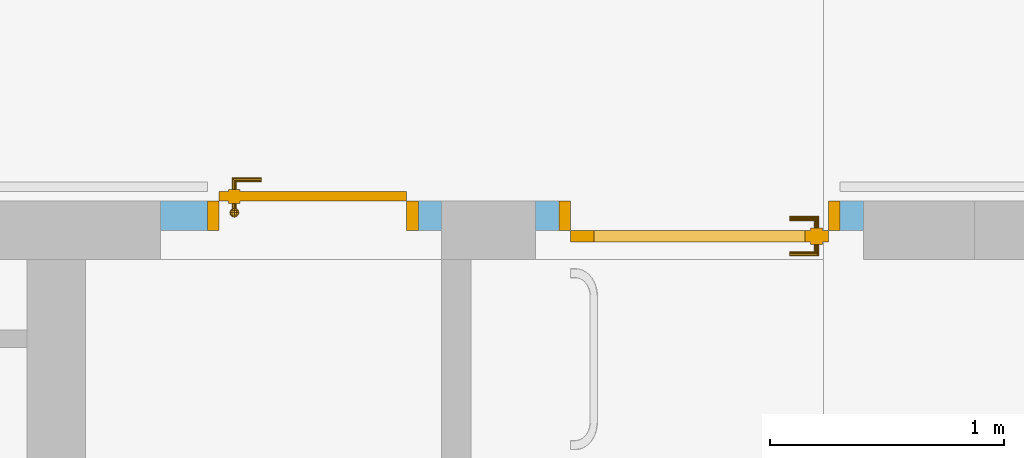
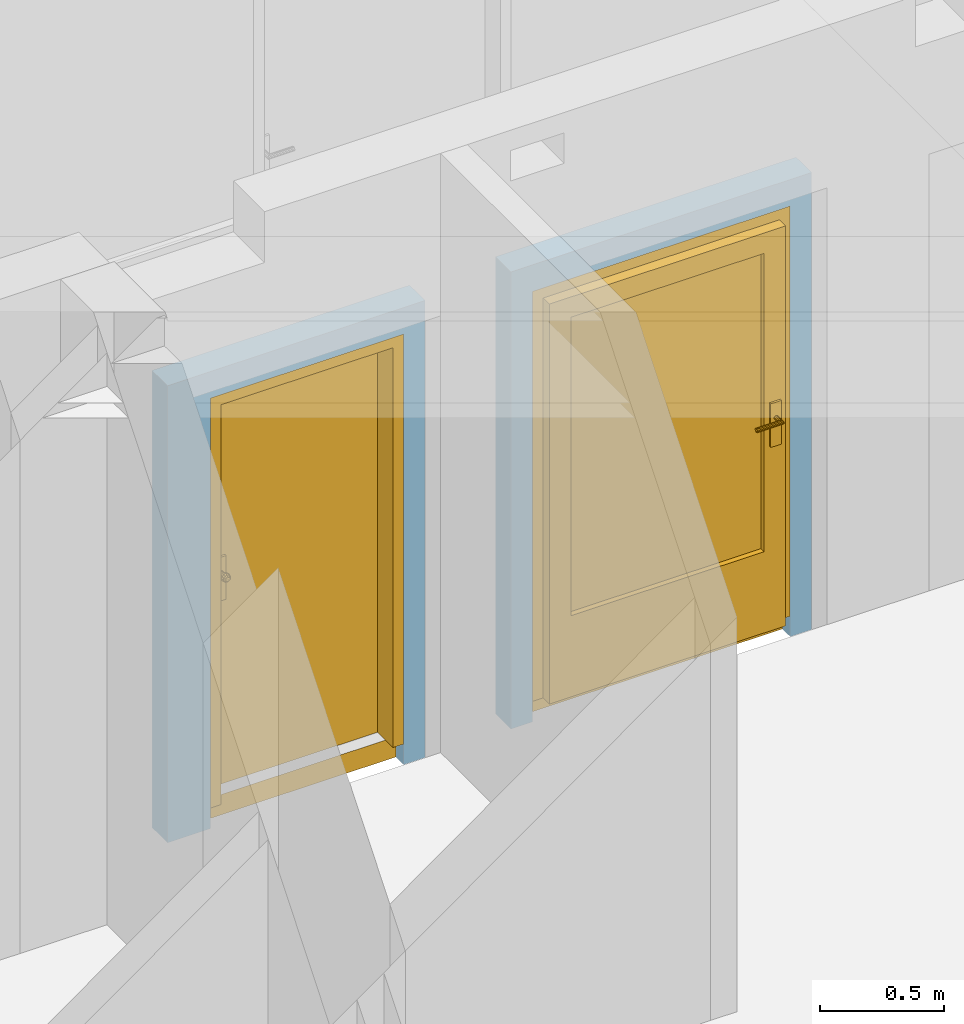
# One storey, part 49 of 84: 2 doors, 2 openings, plus 2 elements that do not belong to this part.
"""IFC4 building model written with IfcOpenShell, lengths in metres."""

from ifc_helpers import new_model, entity, si_unit, converted_unit, derived_unit, frame, frame_2d, origin, origin_with_axes, place, context, subcontext, project, spatial, polyline, rectangle, outline, extrude, closed_shell, open_shell, surface_model, source, transform, mapped, material, layer, layer_set, layer_usage, type_object, element, fill, save


model = new_model("IFC4")

# Units and contexts
model_context = context("Model", 3, precision=1e-05, world=origin())
body_context = subcontext(model_context, "Body", "Model", "MODEL_VIEW")
ifc_project = project(units=[si_unit("LENGTHUNIT", "METRE"), si_unit("AREAUNIT", "SQUARE_METRE"), si_unit("VOLUMEUNIT", "CUBIC_METRE"), si_unit("MASSUNIT", "GRAM", prefix="KILO"), converted_unit("PLANEANGLEUNIT", "DEGREE", entity("IfcPlaneAngleMeasure", 0.0174532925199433), si_unit("PLANEANGLEUNIT", "RADIAN"), dimensions=[0, 0, 0, 0, 0, 0, 0]), derived_unit("THERMALTRANSMITTANCEUNIT", [(si_unit("POWERUNIT", "WATT"), 1), (si_unit("THERMODYNAMICTEMPERATUREUNIT", "KELVIN"), -1), (si_unit("LENGTHUNIT", "METRE"), -2)]), derived_unit("VOLUMETRICFLOWRATEUNIT", [(si_unit("LENGTHUNIT", "METRE"), 3), (converted_unit("TIMEUNIT", "hour", entity("IfcTimeMeasure", 3600.0), si_unit("TIMEUNIT", "SECOND"), dimensions=[0, 0, 1, 0, 0, 0, 0]), -1), (si_unit("LENGTHUNIT", "METRE"), -1)])], contexts=[model_context])

# Site, building, storey
site_placement = place(None, origin())
site = spatial("IfcSite", under=ifc_project, at=site_placement, Name="3. ASŘ", CompositionType="ELEMENT")
building_placement = place(site_placement, origin())
building = spatial("IfcBuilding", under=site, at=building_placement, Name="Pavilon C", CompositionType="ELEMENT")
storey_placement = place(building_placement, frame((0.0, 0.0, -3.3)))
storey = spatial("IfcBuildingStorey", under=building, at=storey_placement, Name="Půdorys 1.PP", CompositionType="ELEMENT", Elevation=-3.3)

# Wall, opening, door
ifc_material_1 = material(Name="YTONG 125")
ifc_layer_1 = layer(ifc_material_1, 0.125)
ifc_layer_set_1 = layer_set([ifc_layer_1])
ifc_layer_usage_1 = layer_usage(ifc_layer_set_1, "AXIS2", "POSITIVE", 0.0)
wall_1_placement = place(storey_placement, frame((3.67, 7.525, -0.1), z_axis=(0.0, 0.0, 1.0), x_axis=(-1.0, 0.0, 0.0)))
wall_1 = element("IfcWall", 1, at=wall_1_placement, inside=storey, material=ifc_layer_usage_1, Name="YTONG 125", context=body_context, shape_type="SweptSolid", body=[
    extrude(rectangle(XDim=1.2, YDim=0.125, at=frame_2d((0.6, 0.0625), x_axis=(1.0, 0.0))), origin_with_axes(), (0.0, 0.0, 1.0), 2.25),
])
opening_1_placement = place(wall_1_placement, frame((1.0, 0.125, 0.0), z_axis=(0.0, -1.0, 0.0), x_axis=(0.0, 0.0, 1.0)))
opening_1 = element("IfcOpeningElement", 2, at=opening_1_placement, cuts=wall_1, Name="Dveřní otvor", ObjectType="Opening", context=body_context, shape_type="SweptSolid", body=[
    extrude(outline(polyline([(0.0, 0.9), (2.12, 0.9), (2.12, 0.0), (0.0, 0.0), (0.0, 0.9)])), origin_with_axes(), (0.0, 0.0, 1.0), 0.125),
])
door_type_1 = type_object("IfcDoorType", Name="I.D029", OperationType="NOTDEFINED", ParameterTakesPrecedence=False, PredefinedType="DOOR")
shared_shape_1 = source(origin_with_axes(), body_context, "Body", "SurfaceModel", [
    surface_model("IfcShellBasedSurfaceModel", [(0.0, 0.0625, 0.0), (0.9, 0.0625, 0.0), (0.9, 0.0625, 0.1), (0.0, 0.0625, 0.1)], [open_shell([[[0, 1, 2, 3]]], orient=[[False]])]),
    surface_model("IfcShellBasedSurfaceModel", [(0.0, 0.125, 2.12), (0.0, 0.125, 0.101), (0.05, 0.125, 0.101), (0.05, 0.125, 2.12), (0.0, 0.0, 0.101), (0.0, 2.41584530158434e-16, 2.12), (0.05, 2.41584530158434e-16, 2.12), (0.05, 0.0, 0.101)], [closed_shell([[[0, 1, 2, 3]], [[4, 5, 6, 7]], [[1, 0, 5, 4]], [[2, 1, 4, 7]], [[3, 2, 7, 6]], [[0, 3, 6, 5]]], orient=[[False], [False], [False], [False], [False], [False]])]),
    surface_model("IfcShellBasedSurfaceModel", [(0.85, 0.125, 2.12), (0.85, 0.125, 0.101), (0.9, 0.125, 0.101), (0.9, 0.125, 2.12), (0.85, 0.0, 0.101), (0.85, 2.41584530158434e-16, 2.12), (0.9, 2.41584530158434e-16, 2.12), (0.9, 0.0, 0.101)], [closed_shell([[[0, 1, 2, 3]], [[4, 5, 6, 7]], [[1, 0, 5, 4]], [[2, 1, 4, 7]], [[3, 2, 7, 6]], [[0, 3, 6, 5]]], orient=[[False], [False], [False], [False], [False], [False]])]),
    surface_model("IfcShellBasedSurfaceModel", [(0.05, 0.125, 2.12), (0.05, 0.125, 2.07), (0.85, 0.125, 2.07), (0.85, 0.125, 2.12), (0.05, 2.41584530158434e-16, 2.07), (0.05, 2.41584530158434e-16, 2.12), (0.85, 2.41584530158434e-16, 2.12), (0.85, 2.41584530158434e-16, 2.07)], [closed_shell([[[0, 1, 2, 3]], [[4, 5, 6, 7]], [[1, 0, 5, 4]], [[2, 1, 4, 7]], [[3, 2, 7, 6]], [[0, 3, 6, 5]]], orient=[[False], [False], [False], [False], [False], [False]])]),
    surface_model("IfcShellBasedSurfaceModel", [(0.05, 0.165, 2.07), (0.05, 0.165, 0.101), (0.85, 0.165, 0.101), (0.85, 0.165, 2.07), (0.05, 0.125, 0.101), (0.05, 0.125, 2.07), (0.85, 0.125, 2.07), (0.85, 0.125, 0.101)], [closed_shell([[[0, 1, 2, 3]], [[4, 5, 6, 7]], [[1, 0, 5, 4]], [[2, 1, 4, 7]], [[3, 2, 7, 6]], [[0, 3, 6, 5]]], orient=[[False], [False], [False], [False], [False], [False]])]),
    surface_model("IfcShellBasedSurfaceModel", [(0.76, 0.125, 1.226), (0.76, 0.125, 1.011), (0.81, 0.125, 1.011), (0.81, 0.125, 1.226), (0.76, 0.115, 1.011), (0.76, 0.115, 1.226), (0.81, 0.115, 1.226), (0.81, 0.115, 1.011)], [closed_shell([[[0, 1, 2, 3]], [[4, 5, 6, 7]], [[1, 0, 5, 4]], [[2, 1, 4, 7]], [[3, 2, 7, 6]], [[0, 3, 6, 5]]], orient=[[False], [False], [False], [False], [False], [False]])]),
    surface_model("IfcShellBasedSurfaceModel", [(0.793660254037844, 0.115, 1.146), (0.795, 0.115, 1.151), (0.793660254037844, 0.115, 1.156), (0.79, 0.115, 1.15966025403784), (0.785, 0.115, 1.161), (0.78, 0.115, 1.15966025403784), (0.776339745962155, 0.115, 1.156), (0.775, 0.115, 1.151), (0.776339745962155, 0.115, 1.146), (0.78, 0.115, 1.14233974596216), (0.785, 0.115, 1.141), (0.79, 0.115, 1.14233974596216), (0.795, 0.0750000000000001, 1.151), (0.793660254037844, 0.0750000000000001, 1.146), (0.79, 0.0750000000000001, 1.14233974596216), (0.785, 0.0750000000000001, 1.141), (0.78, 0.0750000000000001, 1.14233974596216), (0.776339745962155, 0.0750000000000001, 1.146), (0.775, 0.0750000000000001, 1.151), (0.776339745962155, 0.0750000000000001, 1.156), (0.78, 0.0750000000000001, 1.15966025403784), (0.785, 0.0750000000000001, 1.161), (0.79, 0.0750000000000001, 1.15966025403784), (0.793660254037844, 0.0750000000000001, 1.156)], [closed_shell([[[0, 1, 2, 3, 4, 5, 6, 7, 8, 9, 10, 11]], [[12, 13, 14, 15, 16, 17, 18, 19, 20, 21, 22, 23]], [[1, 0, 13, 12]], [[2, 1, 12, 23]], [[3, 2, 23, 22]], [[4, 3, 22, 21]], [[5, 4, 21, 20]], [[6, 5, 20, 19]], [[7, 6, 19, 18]], [[8, 7, 18, 17]], [[9, 8, 17, 16]], [[10, 9, 16, 15]], [[11, 10, 15, 14]], [[0, 11, 14, 13]]], orient=[[False], [False], [False], [False], [False], [False], [False], [False], [False], [False], [False], [False], [False], [False]])]),
    surface_model("IfcShellBasedSurfaceModel", [(0.805, 0.0750000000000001, 1.151), (0.802320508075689, 0.0650000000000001, 1.151), (0.8, 0.0650000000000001, 1.15966025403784), (0.802320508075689, 0.0750000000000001, 1.161), (0.793660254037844, 0.0650000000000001, 1.166), (0.795, 0.0750000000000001, 1.16832050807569), (0.785, 0.0650000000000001, 1.16832050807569), (0.785, 0.0750000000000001, 1.171), (0.776339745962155, 0.0650000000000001, 1.166), (0.775, 0.0750000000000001, 1.16832050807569), (0.77, 0.0650000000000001, 1.15966025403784), (0.767679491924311, 0.0750000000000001, 1.161), (0.767679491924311, 0.0650000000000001, 1.151), (0.765, 0.0750000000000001, 1.151), (0.77, 0.0650000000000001, 1.14233974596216), (0.767679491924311, 0.0750000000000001, 1.141), (0.776339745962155, 0.0650000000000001, 1.136), (0.775, 0.0750000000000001, 1.13367949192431), (0.785, 0.0650000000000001, 1.13367949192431), (0.785, 0.0750000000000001, 1.131), (0.793660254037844, 0.0650000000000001, 1.136), (0.795, 0.0750000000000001, 1.13367949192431), (0.8, 0.0650000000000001, 1.14233974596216), (0.802320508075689, 0.0750000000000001, 1.141), (0.795, 0.0576794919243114, 1.151), (0.793660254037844, 0.0576794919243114, 1.156), (0.79, 0.0576794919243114, 1.15966025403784), (0.785, 0.0576794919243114, 1.161), (0.78, 0.0576794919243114, 1.15966025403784), (0.776339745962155, 0.0576794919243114, 1.156), (0.775, 0.0576794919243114, 1.151), (0.776339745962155, 0.0576794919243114, 1.146), (0.78, 0.0576794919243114, 1.14233974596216), (0.785, 0.0576794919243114, 1.141), (0.79, 0.0576794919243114, 1.14233974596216), (0.793660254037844, 0.0576794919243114, 1.146), (0.785, 0.0550000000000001, 1.151), (0.802320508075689, 0.0850000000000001, 1.151), (0.8, 0.0850000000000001, 1.15966025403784), (0.793660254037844, 0.0850000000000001, 1.166), (0.785, 0.0850000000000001, 1.16832050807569), (0.776339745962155, 0.0850000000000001, 1.166), (0.77, 0.0850000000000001, 1.15966025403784), (0.767679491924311, 0.0850000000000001, 1.151), (0.77, 0.0850000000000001, 1.14233974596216), (0.776339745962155, 0.0850000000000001, 1.136), (0.785, 0.0850000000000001, 1.13367949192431), (0.793660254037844, 0.0850000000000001, 1.136), (0.8, 0.0850000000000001, 1.14233974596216), (0.795, 0.0923205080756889, 1.151), (0.793660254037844, 0.0923205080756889, 1.156), (0.79, 0.0923205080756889, 1.15966025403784), (0.785, 0.0923205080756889, 1.161), (0.78, 0.0923205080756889, 1.15966025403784), (0.776339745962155, 0.0923205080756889, 1.156), (0.775, 0.0923205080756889, 1.151), (0.776339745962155, 0.0923205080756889, 1.146), (0.78, 0.0923205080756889, 1.14233974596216), (0.785, 0.0923205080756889, 1.141), (0.79, 0.0923205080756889, 1.14233974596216), (0.793660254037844, 0.0923205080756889, 1.146), (0.785, 0.0950000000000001, 1.151)], [closed_shell([[[0, 1, 2, 3]], [[3, 2, 4, 5]], [[5, 4, 6, 7]], [[7, 6, 8, 9]], [[9, 8, 10, 11]], [[11, 10, 12, 13]], [[13, 12, 14, 15]], [[15, 14, 16, 17]], [[17, 16, 18, 19]], [[19, 18, 20, 21]], [[21, 20, 22, 23]], [[23, 22, 1, 0]], [[1, 24, 25, 2]], [[2, 25, 26, 4]], [[4, 26, 27, 6]], [[6, 27, 28, 8]], [[8, 28, 29, 10]], [[10, 29, 30, 12]], [[12, 30, 31, 14]], [[14, 31, 32, 16]], [[16, 32, 33, 18]], [[18, 33, 34, 20]], [[20, 34, 35, 22]], [[22, 35, 24, 1]], [[24, 36, 25]], [[25, 36, 26]], [[26, 36, 27]], [[27, 36, 28]], [[28, 36, 29]], [[29, 36, 30]], [[30, 36, 31]], [[31, 36, 32]], [[32, 36, 33]], [[33, 36, 34]], [[34, 36, 35]], [[35, 36, 24]], [[37, 0, 3, 38]], [[38, 3, 5, 39]], [[39, 5, 7, 40]], [[40, 7, 9, 41]], [[41, 9, 11, 42]], [[42, 11, 13, 43]], [[43, 13, 15, 44]], [[44, 15, 17, 45]], [[45, 17, 19, 46]], [[46, 19, 21, 47]], [[47, 21, 23, 48]], [[48, 23, 0, 37]], [[49, 37, 38, 50]], [[50, 38, 39, 51]], [[51, 39, 40, 52]], [[52, 40, 41, 53]], [[53, 41, 42, 54]], [[54, 42, 43, 55]], [[55, 43, 44, 56]], [[56, 44, 45, 57]], [[57, 45, 46, 58]], [[58, 46, 47, 59]], [[59, 47, 48, 60]], [[60, 48, 37, 49]], [[61, 49, 50]], [[61, 50, 51]], [[61, 51, 52]], [[61, 52, 53]], [[61, 53, 54]], [[61, 54, 55]], [[61, 55, 56]], [[61, 56, 57]], [[61, 57, 58]], [[61, 58, 59]], [[61, 59, 60]], [[61, 60, 49]]], orient=[[False], [False], [False], [False], [False], [False], [False], [False], [False], [False], [False], [False], [False], [False], [False], [False], [False], [False], [False], [False], [False], [False], [False], [False], [False], [False], [False], [False], [False], [False], [False], [False], [False], [False], [False], [False], [False], [False], [False], [False], [False], [False], [False], [False], [False], [False], [False], [False], [False], [False], [False], [False], [False], [False], [False], [False], [False], [False], [False], [False], [False], [False], [False], [False], [False], [False], [False], [False], [False], [False], [False], [False]])]),
    surface_model("IfcShellBasedSurfaceModel", [(0.76, 0.165, 1.226), (0.81, 0.165, 1.226), (0.81, 0.165, 1.011), (0.76, 0.165, 1.011), (0.76, 0.175, 1.011), (0.81, 0.175, 1.011), (0.81, 0.175, 1.226), (0.76, 0.175, 1.226)], [closed_shell([[[0, 1, 2, 3]], [[4, 5, 6, 7]], [[3, 4, 7, 0]], [[2, 5, 4, 3]], [[1, 6, 5, 2]], [[0, 7, 6, 1]]], orient=[[False], [False], [False], [False], [False], [False]])]),
    surface_model("IfcShellBasedSurfaceModel", [(0.785, 0.175, 1.161), (0.79, 0.175, 1.15966025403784), (0.793660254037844, 0.175, 1.156), (0.795, 0.175, 1.151), (0.793660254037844, 0.175, 1.146), (0.79, 0.175, 1.14233974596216), (0.785, 0.175, 1.141), (0.78, 0.175, 1.14233974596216), (0.776339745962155, 0.175, 1.146), (0.775, 0.175, 1.151), (0.776339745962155, 0.175, 1.156), (0.78, 0.175, 1.15966025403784), (0.785, 0.215, 1.161), (0.79, 0.22, 1.15966025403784), (0.793660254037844, 0.223660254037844, 1.156), (0.795, 0.225, 1.151), (0.793660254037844, 0.223660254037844, 1.146), (0.79, 0.22, 1.14233974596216), (0.785, 0.215, 1.141), (0.78, 0.21, 1.14233974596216), (0.776339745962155, 0.206339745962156, 1.146), (0.775, 0.205, 1.151), (0.776339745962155, 0.206339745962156, 1.156), (0.78, 0.21, 1.15966025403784), (0.67, 0.215, 1.161), (0.67, 0.22, 1.15966025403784), (0.67, 0.223660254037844, 1.156), (0.67, 0.225, 1.151), (0.67, 0.223660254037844, 1.146), (0.67, 0.22, 1.14233974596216), (0.67, 0.215, 1.141), (0.67, 0.21, 1.14233974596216), (0.67, 0.206339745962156, 1.146), (0.67, 0.205, 1.151), (0.67, 0.206339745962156, 1.156), (0.67, 0.21, 1.15966025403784)], [open_shell([[[0, 1, 2, 3, 4, 5, 6, 7, 8, 9, 10, 11]], [[0, 12, 13, 1]], [[1, 13, 14, 2]], [[2, 14, 15, 3]], [[3, 15, 16, 4]], [[4, 16, 17, 5]], [[5, 17, 18, 6]], [[6, 18, 19, 7]], [[7, 19, 20, 8]], [[8, 20, 21, 9]], [[9, 21, 22, 10]], [[10, 22, 23, 11]], [[11, 23, 12, 0]], [[12, 24, 25, 13]], [[13, 25, 26, 14]], [[14, 26, 27, 15]], [[15, 27, 28, 16]], [[16, 28, 29, 17]], [[17, 29, 30, 18]], [[18, 30, 31, 19]], [[19, 31, 32, 20]], [[20, 32, 33, 21]], [[21, 33, 34, 22]], [[22, 34, 35, 23]], [[23, 35, 24, 12]]], orient=[[False], [False], [False], [False], [False], [False], [False], [False], [False], [False], [False], [False], [False], [False], [False], [False], [False], [False], [False], [False], [False], [False], [False], [False], [False]])]),
])
door_1_placement = place(opening_1_placement, frame((0.0, 0.9, 0.0), z_axis=(1.0, 0.0, 0.0), x_axis=(0.0, -1.0, 0.0)))
door_1 = element("IfcDoor", 3, at=door_1_placement, inside=storey, type_object=door_type_1, Name="I.D029", OverallHeight=2.12, OverallWidth=0.9, context=body_context, shape_type="MappedRepresentation", body=[
    mapped(shared_shape_1, transform((0.0, 0.0, 0.0), x_axis=(1.0, 0.0, 0.0), y_axis=(0.0, -1.0, 0.0), z_axis=(0.0, 0.0, 1.0), scale=1.0)),
])
fill(opening_1, door_1)

ifc_material_2 = material(Name="YTONG 125")
ifc_layer_2 = layer(ifc_material_2, 0.125)
ifc_layer_set_2 = layer_set([ifc_layer_2])
ifc_layer_usage_2 = layer_usage(ifc_layer_set_2, "AXIS2", "POSITIVE", 0.0)
wall_2_placement = place(storey_placement, frame((5.47, 7.525, -0.1), z_axis=(0.0, 0.0, 1.0), x_axis=(-1.0, 0.0, 0.0)))
wall_2 = element("IfcWall", 4, at=wall_2_placement, inside=storey, material=ifc_layer_usage_2, Name="YTONG 125", context=body_context, shape_type="SweptSolid", body=[
    extrude(rectangle(XDim=1.4, YDim=0.125, at=frame_2d((0.7, 0.0625), x_axis=(1.0, 0.0))), origin_with_axes(), (0.0, 0.0, 1.0), 2.25),
])
opening_2_placement = place(wall_2_placement, frame((0.1, 0.0, 0.0), z_axis=(0.0, 1.0, 0.0), x_axis=(0.0, 0.0, 1.0)))
opening_2 = element("IfcOpeningElement", 5, at=opening_2_placement, cuts=wall_2, Name="Dveřní otvor", ObjectType="Opening", context=body_context, shape_type="SweptSolid", body=[
    extrude(outline(polyline([(0.0, 1.2), (2.12, 1.2), (2.12, 0.0), (0.0, 0.0), (0.0, 1.2)])), origin_with_axes(), (0.0, 0.0, 1.0), 0.125),
])
door_type_2 = type_object("IfcDoorType", Name="I.D028", OperationType="NOTDEFINED", ParameterTakesPrecedence=False, PredefinedType="DOOR")
shared_shape_2 = source(origin_with_axes(), body_context, "Body", "SurfaceModel", [
    surface_model("IfcShellBasedSurfaceModel", [(0.0, 0.0625, 0.0), (1.2, 0.0625, 0.0), (1.2, 0.0625, 0.1), (0.0, 0.0625, 0.1)], [open_shell([[[0, 1, 2, 3]]], orient=[[False]])]),
    surface_model("IfcShellBasedSurfaceModel", [(0.0, 0.125, 2.12), (0.0, 0.125, 0.101), (0.05, 0.125, 0.101), (0.05, 0.125, 2.12), (0.0, 0.0, 0.101), (0.0, 2.41584530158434e-16, 2.12), (0.05, 2.41584530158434e-16, 2.12), (0.05, 0.0, 0.101)], [closed_shell([[[0, 1, 2, 3]], [[4, 5, 6, 7]], [[1, 0, 5, 4]], [[2, 1, 4, 7]], [[3, 2, 7, 6]], [[0, 3, 6, 5]]], orient=[[False], [False], [False], [False], [False], [False]])]),
    surface_model("IfcShellBasedSurfaceModel", [(1.15, 0.125, 2.12), (1.15, 0.125, 0.101), (1.2, 0.125, 0.101), (1.2, 0.125, 2.12), (1.15, 0.0, 0.101), (1.15, 2.41584530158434e-16, 2.12), (1.2, 2.41584530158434e-16, 2.12), (1.2, 0.0, 0.101)], [closed_shell([[[0, 1, 2, 3]], [[4, 5, 6, 7]], [[1, 0, 5, 4]], [[2, 1, 4, 7]], [[3, 2, 7, 6]], [[0, 3, 6, 5]]], orient=[[False], [False], [False], [False], [False], [False]])]),
    surface_model("IfcShellBasedSurfaceModel", [(0.05, 0.125, 2.12), (0.05, 0.125, 2.07), (1.15, 0.125, 2.07), (1.15, 0.125, 2.12), (0.05, 2.41584530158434e-16, 2.07), (0.05, 2.41584530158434e-16, 2.12), (1.15, 2.41584530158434e-16, 2.12), (1.15, 2.41584530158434e-16, 2.07)], [closed_shell([[[0, 1, 2, 3]], [[4, 5, 6, 7]], [[1, 0, 5, 4]], [[2, 1, 4, 7]], [[3, 2, 7, 6]], [[0, 3, 6, 5]]], orient=[[False], [False], [False], [False], [False], [False]])]),
    surface_model("IfcShellBasedSurfaceModel", [(0.05, 0.175, 2.07), (0.05, 0.175, 0.101), (0.15, 0.175, 0.101), (0.15, 0.175, 2.07), (0.05, 0.125, 0.101), (0.05, 0.125, 2.07), (0.15, 0.125, 2.07), (0.15, 0.125, 0.101)], [closed_shell([[[0, 1, 2, 3]], [[4, 5, 6, 7]], [[1, 0, 5, 4]], [[2, 1, 4, 7]], [[3, 2, 7, 6]], [[0, 3, 6, 5]]], orient=[[False], [False], [False], [False], [False], [False]])]),
    surface_model("IfcShellBasedSurfaceModel", [(1.05, 0.175, 2.07), (1.05, 0.175, 0.101), (1.15, 0.175, 0.101), (1.15, 0.175, 2.07), (1.05, 0.125, 0.101), (1.05, 0.125, 2.07), (1.15, 0.125, 2.07), (1.15, 0.125, 0.101)], [closed_shell([[[0, 1, 2, 3]], [[4, 5, 6, 7]], [[1, 0, 5, 4]], [[2, 1, 4, 7]], [[3, 2, 7, 6]], [[0, 3, 6, 5]]], orient=[[False], [False], [False], [False], [False], [False]])]),
    surface_model("IfcShellBasedSurfaceModel", [(0.15, 0.175, 0.501), (0.15, 0.175, 0.101), (1.05, 0.175, 0.101), (1.05, 0.175, 0.501), (0.15, 0.125, 0.101), (0.15, 0.125, 0.501), (1.05, 0.125, 0.501), (1.05, 0.125, 0.101)], [closed_shell([[[0, 1, 2, 3]], [[4, 5, 6, 7]], [[1, 0, 5, 4]], [[2, 1, 4, 7]], [[3, 2, 7, 6]], [[0, 3, 6, 5]]], orient=[[False], [False], [False], [False], [False], [False]])]),
    surface_model("IfcShellBasedSurfaceModel", [(0.15, 0.175, 2.07), (0.15, 0.175, 1.97), (1.05, 0.175, 1.97), (1.05, 0.175, 2.07), (0.15, 0.125, 1.97), (0.15, 0.125, 2.07), (1.05, 0.125, 2.07), (1.05, 0.125, 1.97)], [closed_shell([[[0, 1, 2, 3]], [[4, 5, 6, 7]], [[1, 0, 5, 4]], [[2, 1, 4, 7]], [[3, 2, 7, 6]], [[0, 3, 6, 5]]], orient=[[False], [False], [False], [False], [False], [False]])]),
    surface_model("IfcShellBasedSurfaceModel", [(1.075, 0.125, 1.226), (1.075, 0.125, 1.011), (1.125, 0.125, 1.011), (1.125, 0.125, 1.226), (1.075, 0.115, 1.011), (1.075, 0.115, 1.226), (1.125, 0.115, 1.226), (1.125, 0.115, 1.011)], [closed_shell([[[0, 1, 2, 3]], [[4, 5, 6, 7]], [[1, 0, 5, 4]], [[2, 1, 4, 7]], [[3, 2, 7, 6]], [[0, 3, 6, 5]]], orient=[[False], [False], [False], [False], [False], [False]])]),
    surface_model("IfcShellBasedSurfaceModel", [(1.1, 0.115, 1.161), (1.095, 0.115, 1.15966025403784), (1.09133974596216, 0.115, 1.156), (1.09, 0.115, 1.151), (1.09133974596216, 0.115, 1.146), (1.095, 0.115, 1.14233974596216), (1.1, 0.115, 1.141), (1.105, 0.115, 1.14233974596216), (1.10866025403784, 0.115, 1.146), (1.11, 0.115, 1.151), (1.10866025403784, 0.115, 1.156), (1.105, 0.115, 1.15966025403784), (1.105, 0.0700000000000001, 1.15966025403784), (1.1, 0.0750000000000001, 1.161), (1.10866025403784, 0.0663397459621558, 1.156), (1.11, 0.0650000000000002, 1.151), (1.10866025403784, 0.0663397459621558, 1.146), (1.105, 0.0700000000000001, 1.14233974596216), (1.1, 0.0750000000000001, 1.141), (1.095, 0.0800000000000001, 1.14233974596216), (1.09133974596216, 0.0836602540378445, 1.146), (1.09, 0.0850000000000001, 1.151), (1.09133974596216, 0.0836602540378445, 1.156), (1.095, 0.0800000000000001, 1.15966025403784), (0.985, 0.0700000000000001, 1.15966025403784), (0.985, 0.0750000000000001, 1.161), (0.985, 0.0663397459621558, 1.156), (0.985, 0.0650000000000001, 1.151), (0.985, 0.0663397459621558, 1.146), (0.985, 0.0700000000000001, 1.14233974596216), (0.985, 0.0750000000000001, 1.141), (0.985, 0.0800000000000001, 1.14233974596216), (0.985, 0.0836602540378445, 1.146), (0.985, 0.0850000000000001, 1.151), (0.985, 0.0836602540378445, 1.156), (0.985, 0.0800000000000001, 1.15966025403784)], [open_shell([[[0, 1, 2, 3, 4, 5, 6, 7, 8, 9, 10, 11]], [[0, 11, 12, 13]], [[11, 10, 14, 12]], [[10, 9, 15, 14]], [[9, 8, 16, 15]], [[8, 7, 17, 16]], [[7, 6, 18, 17]], [[6, 5, 19, 18]], [[5, 4, 20, 19]], [[4, 3, 21, 20]], [[3, 2, 22, 21]], [[2, 1, 23, 22]], [[1, 0, 13, 23]], [[13, 12, 24, 25]], [[12, 14, 26, 24]], [[14, 15, 27, 26]], [[15, 16, 28, 27]], [[16, 17, 29, 28]], [[17, 18, 30, 29]], [[18, 19, 31, 30]], [[19, 20, 32, 31]], [[20, 21, 33, 32]], [[21, 22, 34, 33]], [[22, 23, 35, 34]], [[23, 13, 25, 35]]], orient=[[False], [False], [False], [False], [False], [False], [False], [False], [False], [False], [False], [False], [False], [False], [False], [False], [False], [False], [False], [False], [False], [False], [False], [False], [False]])]),
    surface_model("IfcShellBasedSurfaceModel", [(1.075, 0.175, 1.226), (1.125, 0.175, 1.226), (1.125, 0.175, 1.011), (1.075, 0.175, 1.011), (1.075, 0.185, 1.011), (1.125, 0.185, 1.011), (1.125, 0.185, 1.226), (1.075, 0.185, 1.226)], [closed_shell([[[0, 1, 2, 3]], [[4, 5, 6, 7]], [[3, 4, 7, 0]], [[2, 5, 4, 3]], [[1, 6, 5, 2]], [[0, 7, 6, 1]]], orient=[[False], [False], [False], [False], [False], [False]])]),
    surface_model("IfcShellBasedSurfaceModel", [(1.1, 0.185, 1.161), (1.105, 0.185, 1.15966025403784), (1.10866025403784, 0.185, 1.156), (1.11, 0.185, 1.151), (1.10866025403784, 0.185, 1.146), (1.105, 0.185, 1.14233974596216), (1.1, 0.185, 1.141), (1.095, 0.185, 1.14233974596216), (1.09133974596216, 0.185, 1.146), (1.09, 0.185, 1.151), (1.09133974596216, 0.185, 1.156), (1.095, 0.185, 1.15966025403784), (1.1, 0.225, 1.161), (1.105, 0.23, 1.15966025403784), (1.10866025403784, 0.233660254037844, 1.156), (1.11, 0.235, 1.151), (1.10866025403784, 0.233660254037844, 1.146), (1.105, 0.23, 1.14233974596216), (1.1, 0.225, 1.141), (1.095, 0.22, 1.14233974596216), (1.09133974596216, 0.216339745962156, 1.146), (1.09, 0.215, 1.151), (1.09133974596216, 0.216339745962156, 1.156), (1.095, 0.22, 1.15966025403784), (0.985, 0.225, 1.161), (0.985, 0.23, 1.15966025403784), (0.985, 0.233660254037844, 1.156), (0.985, 0.235, 1.151), (0.985, 0.233660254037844, 1.146), (0.985, 0.23, 1.14233974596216), (0.985, 0.225, 1.141), (0.985, 0.22, 1.14233974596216), (0.985, 0.216339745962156, 1.146), (0.985, 0.215, 1.151), (0.985, 0.216339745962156, 1.156), (0.985, 0.22, 1.15966025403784)], [open_shell([[[0, 1, 2, 3, 4, 5, 6, 7, 8, 9, 10, 11]], [[0, 12, 13, 1]], [[1, 13, 14, 2]], [[2, 14, 15, 3]], [[3, 15, 16, 4]], [[4, 16, 17, 5]], [[5, 17, 18, 6]], [[6, 18, 19, 7]], [[7, 19, 20, 8]], [[8, 20, 21, 9]], [[9, 21, 22, 10]], [[10, 22, 23, 11]], [[11, 23, 12, 0]], [[12, 24, 25, 13]], [[13, 25, 26, 14]], [[14, 26, 27, 15]], [[15, 27, 28, 16]], [[16, 28, 29, 17]], [[17, 29, 30, 18]], [[18, 30, 31, 19]], [[19, 31, 32, 20]], [[20, 32, 33, 21]], [[21, 33, 34, 22]], [[22, 34, 35, 23]], [[23, 35, 24, 12]]], orient=[[False], [False], [False], [False], [False], [False], [False], [False], [False], [False], [False], [False], [False], [False], [False], [False], [False], [False], [False], [False], [False], [False], [False], [False], [False]])]),
    surface_model("IfcShellBasedSurfaceModel", [(0.15, 0.15, 0.501), (1.05, 0.15, 0.501), (1.05, 0.15, 1.97), (0.15, 0.15, 1.97)], [open_shell([[[0, 1, 2, 3]]], orient=[[False]])]),
])
door_2_placement = place(opening_2_placement, frame((0.0, 1.2, 0.0), z_axis=(1.0, 0.0, 0.0), x_axis=(0.0, -1.0, 1.22464679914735e-16)))
door_2 = element("IfcDoor", 6, at=door_2_placement, inside=storey, type_object=door_type_2, Name="I.D028", OverallHeight=2.12, OverallWidth=1.2, context=body_context, shape_type="MappedRepresentation", body=[
    mapped(shared_shape_2, transform((0.0, 0.0, 0.0), x_axis=(1.0, 0.0, 0.0), y_axis=(0.0, -1.0, 0.0), z_axis=(0.0, 0.0, 1.0), scale=1.0)),
])
fill(opening_2, door_2)

save(model, "model.ifc")
